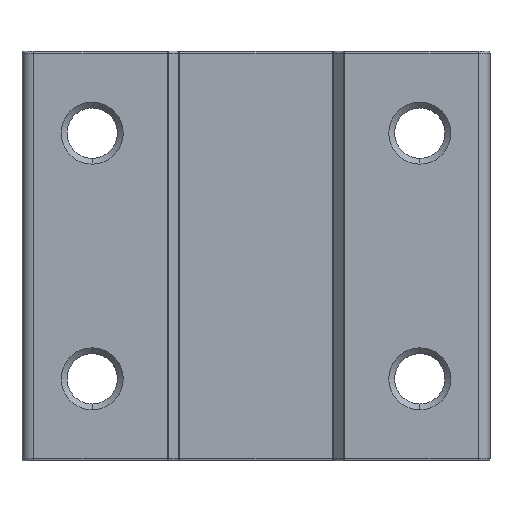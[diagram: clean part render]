
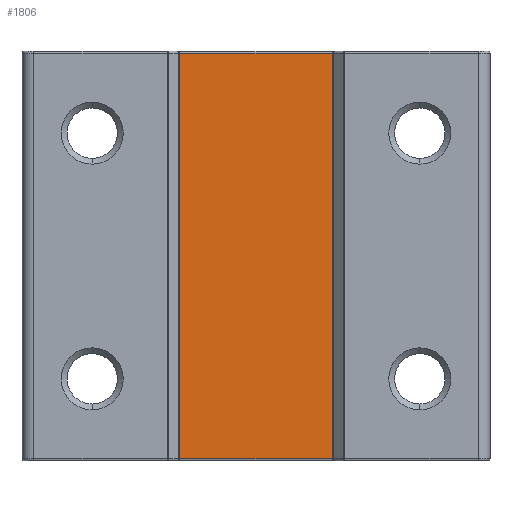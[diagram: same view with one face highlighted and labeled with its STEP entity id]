
A CAD part, front view. The second image highlights one B-rep face of the part: STEP entity #1806.
In plain terms, the highlighted planar face has unit normal (0, -1, 0).
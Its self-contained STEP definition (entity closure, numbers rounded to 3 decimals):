
#386 = DIRECTION ( 'NONE',  ( 0., 0., -1. ) ) ;
#656 = VECTOR ( 'NONE', #2009, 1000. ) ;
#739 = EDGE_CURVE ( 'NONE', #3126, #9815, #11723, .T. ) ;
#820 = ORIENTED_EDGE ( 'NONE', *, *, #11704, .T. ) ;
#1806 = ADVANCED_FACE ( 'NONE', ( #12025 ), #3659, .F. ) ;
#2009 = DIRECTION ( 'NONE',  ( 0., 0., 1. ) ) ;
#2534 = DIRECTION ( 'NONE',  ( 0., 1., 0. ) ) ;
#2786 = CARTESIAN_POINT ( 'NONE',  ( 6.538, -12.55, 34.85 ) ) ;
#3126 = VERTEX_POINT ( 'NONE', #6406 ) ;
#3224 = EDGE_CURVE ( 'NONE', #9815, #14023, #6750, .T. ) ;
#3659 = PLANE ( 'NONE',  #10693 ) ;
#4805 = DIRECTION ( 'NONE',  ( 1., 0., 0. ) ) ;
#5092 = VECTOR ( 'NONE', #386, 1000. ) ;
#5600 = VECTOR ( 'NONE', #4805, 1000. ) ;
#6406 = CARTESIAN_POINT ( 'NONE',  ( -6.538, -12.55, 0.15 ) ) ;
#6410 = ORIENTED_EDGE ( 'NONE', *, *, #739, .T. ) ;
#6440 = VERTEX_POINT ( 'NONE', #9484 ) ;
#6750 = LINE ( 'NONE', #11152, #656 ) ;
#7245 = CARTESIAN_POINT ( 'NONE',  ( -6.538, -12.55, 0. ) ) ;
#7675 = CARTESIAN_POINT ( 'NONE',  ( -6.6, -12.55, 34.85 ) ) ;
#8269 = CARTESIAN_POINT ( 'NONE',  ( -6.6, -12.55, 35. ) ) ;
#8444 = CARTESIAN_POINT ( 'NONE',  ( 6.538, -12.55, 0.15 ) ) ;
#8761 = CARTESIAN_POINT ( 'NONE',  ( 6.6, -12.55, 0.15 ) ) ;
#9393 = LINE ( 'NONE', #7675, #12455 ) ;
#9484 = CARTESIAN_POINT ( 'NONE',  ( -6.538, -12.55, 34.85 ) ) ;
#9815 = VERTEX_POINT ( 'NONE', #8444 ) ;
#9920 = ORIENTED_EDGE ( 'NONE', *, *, #3224, .T. ) ;
#10579 = DIRECTION ( 'NONE',  ( -1., 0., 0. ) ) ;
#10693 = AXIS2_PLACEMENT_3D ( 'NONE', #8269, #2534, #10579 ) ;
#10729 = EDGE_LOOP ( 'NONE', ( #6410, #9920, #820, #10925 ) ) ;
#10858 = EDGE_CURVE ( 'NONE', #6440, #3126, #13925, .T. ) ;
#10925 = ORIENTED_EDGE ( 'NONE', *, *, #10858, .T. ) ;
#11152 = CARTESIAN_POINT ( 'NONE',  ( 6.538, -12.55, 35. ) ) ;
#11704 = EDGE_CURVE ( 'NONE', #14023, #6440, #9393, .T. ) ;
#11723 = LINE ( 'NONE', #8761, #5600 ) ;
#12025 = FACE_OUTER_BOUND ( 'NONE', #10729, .T. ) ;
#12455 = VECTOR ( 'NONE', #13373, 1000. ) ;
#13373 = DIRECTION ( 'NONE',  ( -1., 0., 0. ) ) ;
#13925 = LINE ( 'NONE', #7245, #5092 ) ;
#14023 = VERTEX_POINT ( 'NONE', #2786 ) ;
